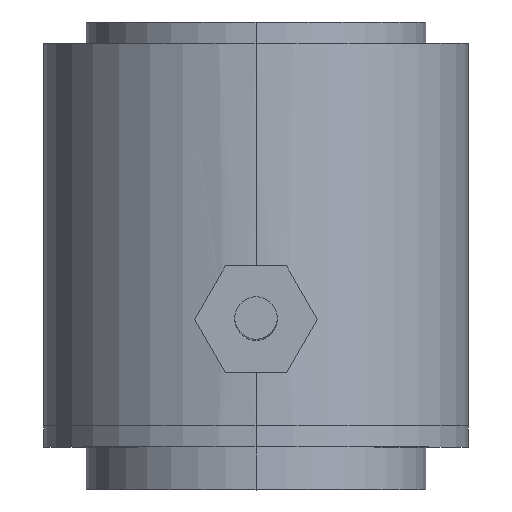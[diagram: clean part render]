
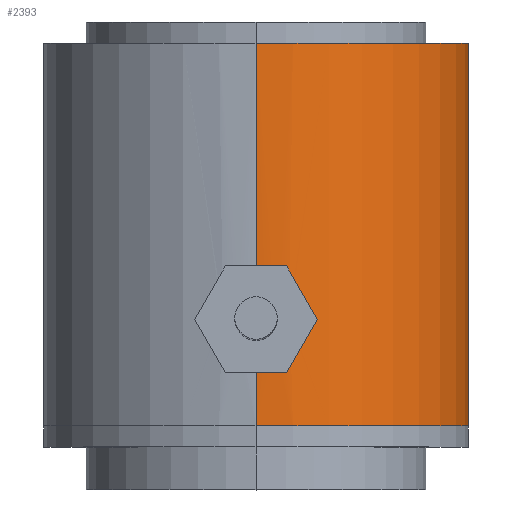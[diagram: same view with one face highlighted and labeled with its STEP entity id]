
A CAD part, top view. The second image highlights one B-rep face of the part: STEP entity #2393.
In plain terms, the highlighted cylindrical face has radius 10 mm (diameter 20 mm), a partial arc.
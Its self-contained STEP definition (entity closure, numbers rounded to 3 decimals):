
#1 = CIRCLE ( 'NONE', #2410, 10. ) ;
#20 = CYLINDRICAL_SURFACE ( 'NONE', #1602, 10. ) ;
#51 = EDGE_CURVE ( 'NONE', #592, #1415, #1939, .T. ) ;
#97 = CARTESIAN_POINT ( 'NONE',  ( 1.22, 3.928, 9.926 ) ) ;
#108 = CARTESIAN_POINT ( 'NONE',  ( 0.107, 6.621, 10. ) ) ;
#256 = DIRECTION ( 'NONE',  ( 0., 1., 0. ) ) ;
#268 = DIRECTION ( 'NONE',  ( 0., 0., 1. ) ) ;
#295 = CARTESIAN_POINT ( 'NONE',  ( 1.456, 4.28, 9.893 ) ) ;
#367 = LINE ( 'NONE', #1729, #1780 ) ;
#459 = DIRECTION ( 'NONE',  ( 0., 0., 1. ) ) ;
#486 = CARTESIAN_POINT ( 'NONE',  ( 0., 3.379, 10. ) ) ;
#524 = DIRECTION ( 'NONE',  ( 0., 1., 0. ) ) ;
#565 = CARTESIAN_POINT ( 'NONE',  ( 1.416, 5.817, 9.9 ) ) ;
#592 = VERTEX_POINT ( 'NONE', #2454 ) ;
#672 = EDGE_CURVE ( 'NONE', #2205, #1424, #1815, .T. ) ;
#673 = EDGE_CURVE ( 'NONE', #1511, #2205, #1245, .T. ) ;
#691 = CARTESIAN_POINT ( 'NONE',  ( 0.212, 6.61, 9.998 ) ) ;
#743 = CARTESIAN_POINT ( 'NONE',  ( 0.426, 3.422, 9.993 ) ) ;
#764 = DIRECTION ( 'NONE',  ( 0., 1., 0. ) ) ;
#799 = ORIENTED_EDGE ( 'NONE', *, *, #1032, .F. ) ;
#809 = LINE ( 'NONE', #2151, #2198 ) ;
#819 = ORIENTED_EDGE ( 'NONE', *, *, #673, .T. ) ;
#874 = CARTESIAN_POINT ( 'NONE',  ( 1.621, 5., 9.868 ) ) ;
#890 = CARTESIAN_POINT ( 'NONE',  ( 0.996, 3.704, 9.951 ) ) ;
#891 = VERTEX_POINT ( 'NONE', #2394 ) ;
#898 = CARTESIAN_POINT ( 'NONE',  ( 0.523, 6.538, 9.987 ) ) ;
#904 = DIRECTION ( 'NONE',  ( 0., 0., 1. ) ) ;
#973 = VECTOR ( 'NONE', #524, 1000. ) ;
#1032 = EDGE_CURVE ( 'NONE', #1675, #1424, #809, .T. ) ;
#1053 = DIRECTION ( 'NONE',  ( 0., -1., 0. ) ) ;
#1073 = CARTESIAN_POINT ( 'NONE',  ( 1.289, 4.011, 9.917 ) ) ;
#1086 = CARTESIAN_POINT ( 'NONE',  ( 0.42, 6.569, 9.992 ) ) ;
#1190 = EDGE_CURVE ( 'NONE', #1675, #592, #1728, .T. ) ;
#1245 = LINE ( 'NONE', #2261, #973 ) ;
#1275 = CARTESIAN_POINT ( 'NONE',  ( 0.816, 3.583, 9.969 ) ) ;
#1285 = CARTESIAN_POINT ( 'NONE',  ( 0.988, 6.289, 9.951 ) ) ;
#1312 = CARTESIAN_POINT ( 'NONE',  ( 0., 6.621, 10. ) ) ;
#1341 = CARTESIAN_POINT ( 'NONE',  ( 1.621, 5.214, 9.868 ) ) ;
#1370 = EDGE_LOOP ( 'NONE', ( #2091, #819, #1687, #799, #1974, #1820, #2322 ) ) ;
#1375 = AXIS2_PLACEMENT_3D ( 'NONE', #1684, #1053, #904 ) ;
#1415 = VERTEX_POINT ( 'NONE', #486 ) ;
#1424 = VERTEX_POINT ( 'NONE', #1949 ) ;
#1438 = FACE_OUTER_BOUND ( 'NONE', #1370, .T. ) ;
#1454 = CARTESIAN_POINT ( 'NONE',  ( 1.569, 4.58, 9.876 ) ) ;
#1511 = VERTEX_POINT ( 'NONE', #2178 ) ;
#1593 = CARTESIAN_POINT ( 'NONE',  ( 0., 0., 0. ) ) ;
#1602 = AXIS2_PLACEMENT_3D ( 'NONE', #2006, #1787, #268 ) ;
#1641 = CARTESIAN_POINT ( 'NONE',  ( 1.621, 4.893, 9.868 ) ) ;
#1663 = CARTESIAN_POINT ( 'NONE',  ( 0.719, 6.457, 9.975 ) ) ;
#1675 = VERTEX_POINT ( 'NONE', #1312 ) ;
#1684 = CARTESIAN_POINT ( 'NONE',  ( 0., 18., 0. ) ) ;
#1687 = ORIENTED_EDGE ( 'NONE', *, *, #672, .T. ) ;
#1695 = EDGE_CURVE ( 'NONE', #891, #1415, #367, .T. ) ;
#1728 = B_SPLINE_CURVE_WITH_KNOTS ( 'NONE', 3,
 ( #2437, #108, #691, #1086, #898, #1663, #2447, #1285, #2063, #2134, #565, #2517, #1341, #2468 ),
 .UNSPECIFIED., .F., .F.,
 ( 4, 2, 2, 2, 2, 2, 4 ),
 ( 0.008, 0.008, 0.008, 0.009, 0.009, 0.01, 0.01 ),
 .UNSPECIFIED. ) ;
#1729 = CARTESIAN_POINT ( 'NONE',  ( 0., 0., 10. ) ) ;
#1780 = VECTOR ( 'NONE', #764, 1000. ) ;
#1787 = DIRECTION ( 'NONE',  ( 0., 1., 0. ) ) ;
#1815 = CIRCLE ( 'NONE', #1375, 10. ) ;
#1820 = ORIENTED_EDGE ( 'NONE', *, *, #51, .T. ) ;
#1836 = CARTESIAN_POINT ( 'NONE',  ( 1.407, 4.187, 9.901 ) ) ;
#1916 = EDGE_CURVE ( 'NONE', #891, #1511, #1, .T. ) ;
#1930 = CARTESIAN_POINT ( 'NONE',  ( 0., 18., -10. ) ) ;
#1939 = B_SPLINE_CURVE_WITH_KNOTS ( 'NONE', 3,
 ( #874, #1641, #2426, #1454, #2231, #295, #1836, #1073, #97, #890, #1275, #743, #2481, #2292 ),
 .UNSPECIFIED., .F., .F.,
 ( 4, 2, 2, 2, 2, 2, 4 ),
 ( 0., 0., 0.001, 0.001, 0.001, 0.002, 0.003 ),
 .UNSPECIFIED. ) ;
#1949 = CARTESIAN_POINT ( 'NONE',  ( 0., 18., 10. ) ) ;
#1974 = ORIENTED_EDGE ( 'NONE', *, *, #1190, .T. ) ;
#2006 = CARTESIAN_POINT ( 'NONE',  ( 0., 0., 0. ) ) ;
#2063 = CARTESIAN_POINT ( 'NONE',  ( 1.071, 6.221, 9.943 ) ) ;
#2091 = ORIENTED_EDGE ( 'NONE', *, *, #1916, .T. ) ;
#2134 = CARTESIAN_POINT ( 'NONE',  ( 1.295, 5.998, 9.917 ) ) ;
#2151 = CARTESIAN_POINT ( 'NONE',  ( 0., 0., 10. ) ) ;
#2178 = CARTESIAN_POINT ( 'NONE',  ( 0., 0., -10. ) ) ;
#2198 = VECTOR ( 'NONE', #256, 1000. ) ;
#2205 = VERTEX_POINT ( 'NONE', #1930 ) ;
#2231 = CARTESIAN_POINT ( 'NONE',  ( 1.538, 4.477, 9.881 ) ) ;
#2261 = CARTESIAN_POINT ( 'NONE',  ( 0., 0., -10. ) ) ;
#2292 = CARTESIAN_POINT ( 'NONE',  ( 0., 3.379, 10. ) ) ;
#2322 = ORIENTED_EDGE ( 'NONE', *, *, #1695, .F. ) ;
#2388 = DIRECTION ( 'NONE',  ( 0., 1., 0. ) ) ;
#2393 = ADVANCED_FACE ( 'NONE', ( #1438 ), #20, .T. ) ;
#2394 = CARTESIAN_POINT ( 'NONE',  ( 0., 0., 10. ) ) ;
#2410 = AXIS2_PLACEMENT_3D ( 'NONE', #1593, #2388, #459 ) ;
#2426 = CARTESIAN_POINT ( 'NONE',  ( 1.61, 4.787, 9.869 ) ) ;
#2437 = CARTESIAN_POINT ( 'NONE',  ( 0., 6.621, 10. ) ) ;
#2447 = CARTESIAN_POINT ( 'NONE',  ( 0.812, 6.407, 9.967 ) ) ;
#2454 = CARTESIAN_POINT ( 'NONE',  ( 1.621, 5., 9.868 ) ) ;
#2468 = CARTESIAN_POINT ( 'NONE',  ( 1.621, 5., 9.868 ) ) ;
#2481 = CARTESIAN_POINT ( 'NONE',  ( 0.212, 3.379, 10. ) ) ;
#2517 = CARTESIAN_POINT ( 'NONE',  ( 1.578, 5.427, 9.875 ) ) ;
